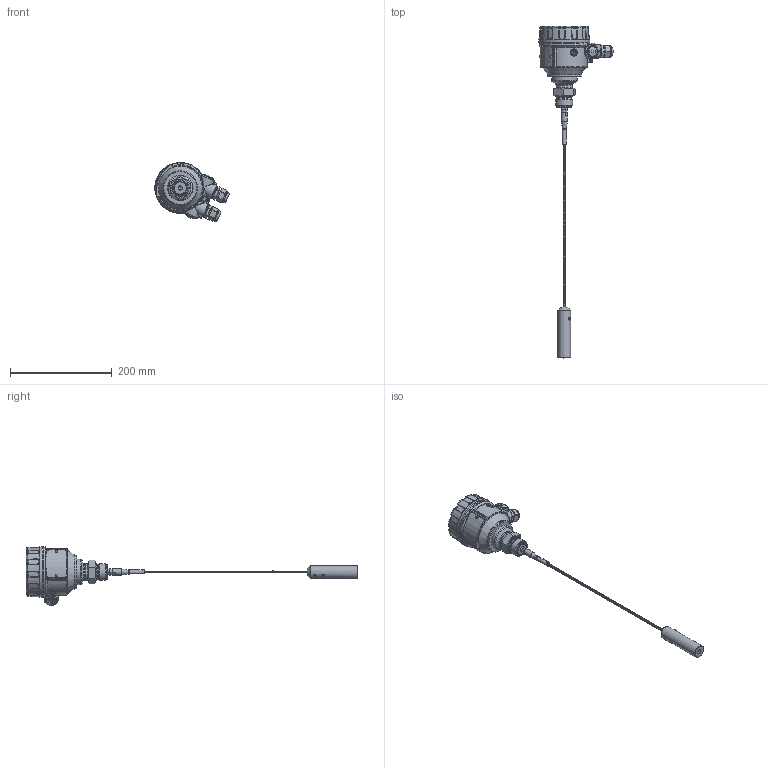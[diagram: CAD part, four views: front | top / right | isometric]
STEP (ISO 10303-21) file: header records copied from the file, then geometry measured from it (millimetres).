
FILE_DESCRIPTION(/* description */ (''),/* implementation_level */ '2;1');
FILE_NAME(/* name */ 'I:\Raj\3D\készülék rajzok\Összeállított készülékek\HT\HBK_7.stp',/* time_stamp */ '2022-08-25T10:54:01+02:00',/* author */ ('zcserhati'),/* organization */ (''),/* preprocessor_version */ 'ST-DEVELOPER v15.6',/* originating_system */ 'Autodesk Inventor 2015',/* authorisation */ '');
FILE_SCHEMA (('AUTOMOTIVE_DESIGN { 1 0 10303 214 3 1 1 }'));
Length unit declared in the file: millimetre
Products named in the file (27): RKH_1_1.0001; ZARO; SB_külső; U_Alát; DIN 128 - A4; DIN 7985 (Z) - M4x8-Z; Tlem_egy; adattabla; Szegecs; SZERELTHAZ; HTK_HFogl_Welds; HTK_Csatl; HTK_Agy; HTK_HFogl; teflonbetét; ellenanya; kötelveg; 4mmkotél; suly; DIN 914 - M6 x 10; Szerkkotél; Alu_alacsony_uveg; Tomsz; Alatet; Gumidugo; Tomszel_sz; HBK_7
Bounding box: 145.83 x 652.3 x 115.79 mm (x, y, z)
Volume: 326814.8 mm3; surface area: 165513.8 mm2
Topology: 37 solids, 37 shells, 1336 faces, 3203 edges, 1934 vertices
Faces by surface type: plane 397, bspline 354, cylinder 342, cone 99, torus 88, sphere 56
Full cylindrical faces by diameter (mm): 3 x6, 3.2 x2, 3.242 x1, 3.4 x2, 3.5 x5, 3.65 x1, 3.9 x1, 4 x1, 4.1 x1, 4.2 x1, 4.3 x1, 4.5 x1, 5.9 x2, 6 x9, 6.2 x1, 8 x5, 8.2 x1, 10 x3, 12 x1, 12.5 x4, 14 x2, 17 x3, 18.15 x7, 18.3 x12, 20 x10, 23.5 x2, 24.5 x1, 25 x3, 26 x2, 27.5 x2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
Entity records: 66215 total; most frequent: CARTESIAN_POINT 40008, ORIENTED_EDGE 5346, DIRECTION 4799, EDGE_CURVE 2657, AXIS2_PLACEMENT_3D 2041, VERTEX_POINT 1698, EDGE_LOOP 1471, FACE_OUTER_BOUND 1217
